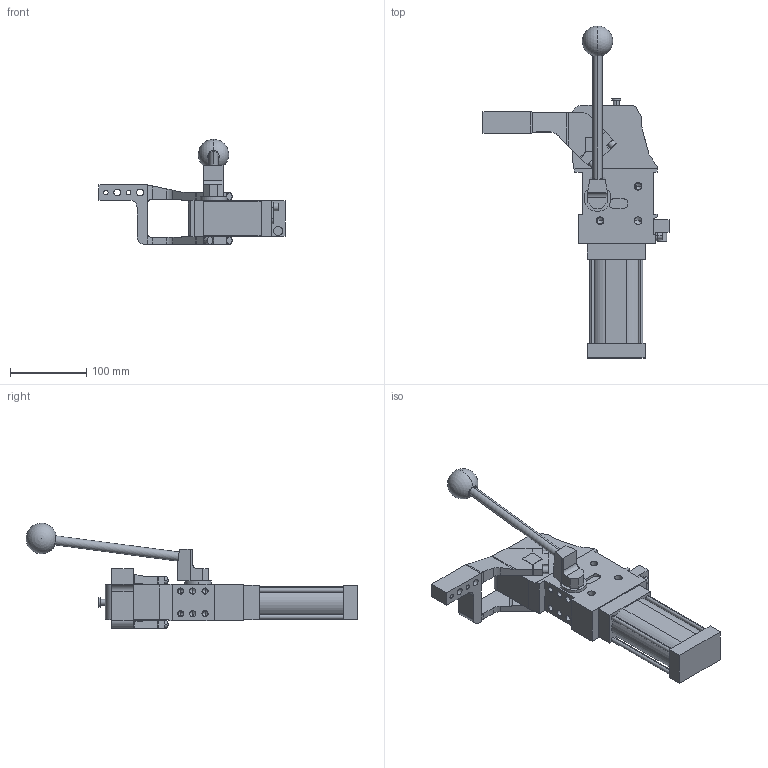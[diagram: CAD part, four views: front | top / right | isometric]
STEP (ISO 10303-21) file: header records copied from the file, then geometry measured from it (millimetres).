
FILE_DESCRIPTION (( 'STEP AP214' ), '1' );
FILE_NAME ('cplm50lav1si1g_135.STEP', '2023-01-26T13:15:03', ( '' ), ( '' ), 'SwSTEP 2.0', 'SolidWorks 2022', '' );
FILE_SCHEMA (( 'AUTOMOTIVE_DESIGN' ));
Length unit declared in the file: millimetre
Products named in the file (5): comando_manuale_cplm_50; blocchetto_VEP_0; meccanica_cplm_50; cplm50lav1si1g_135; leva_sx_offset_15_cpl50
Assembly tree (4 placements, depth 2):
  cplm50lav1si1g_135
    meccanica_cplm_50
    blocchetto_VEP_0
    leva_sx_offset_15_cpl50
    comando_manuale_cplm_50
Bounding box: 244.5 x 436.23 x 138.5 mm (x, y, z)
Volume: 1469960 mm3; surface area: 181399.7 mm2
Topology: 4 solids, 4 shells, 431 faces, 1108 edges, 691 vertices
Faces by surface type: plane 212, cylinder 167, cone 50, sphere 2
Entity records: 14371 total; most frequent: DIRECTION 2277, CARTESIAN_POINT 2271, ORIENTED_EDGE 2114, EDGE_CURVE 1057, AXIS2_PLACEMENT_3D 792, LINE 693, VECTOR 693, VERTEX_POINT 688
